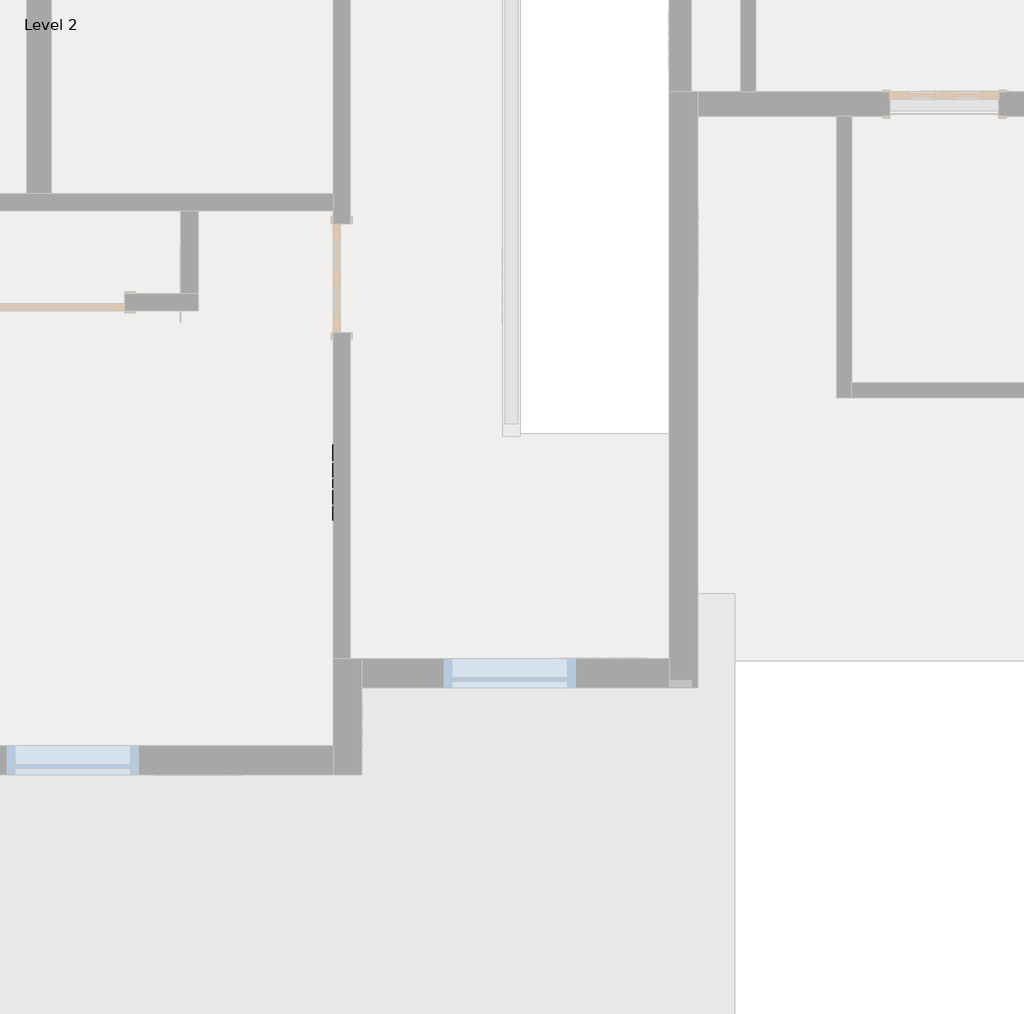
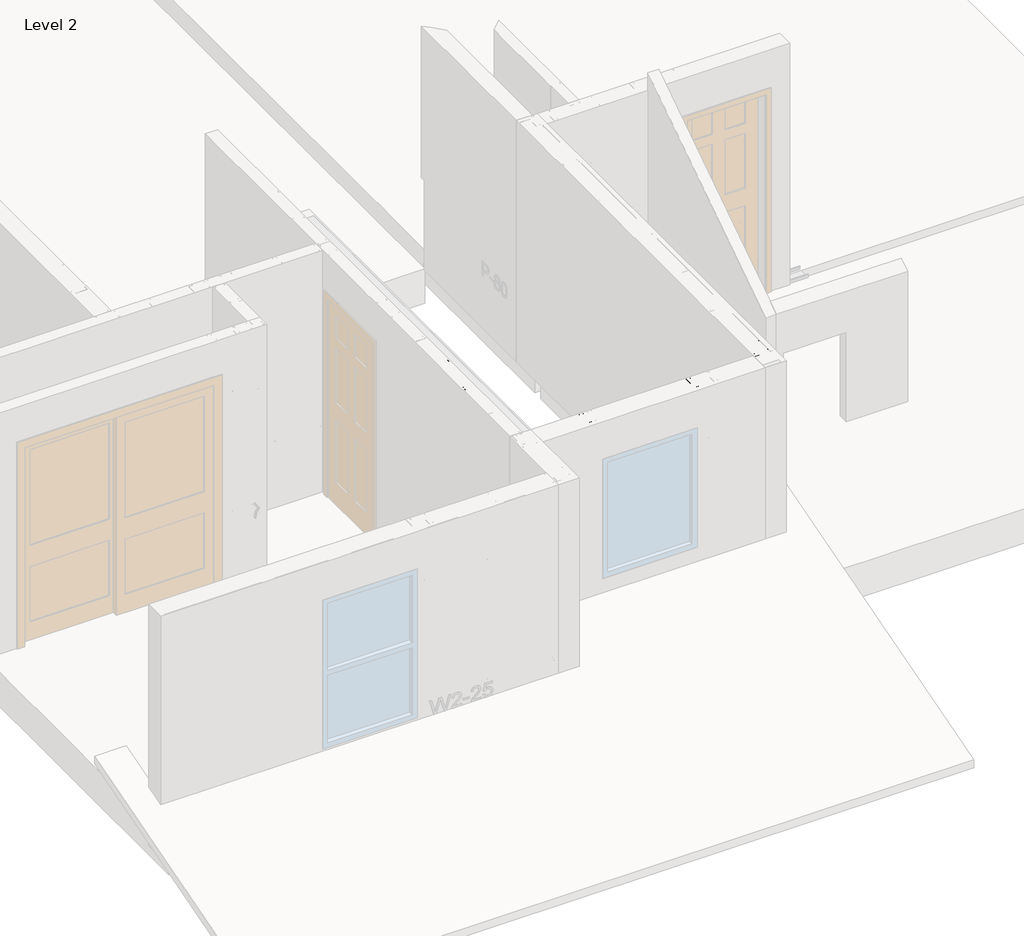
# One storey, part 6 of 46: 6 columns, 1 beam, 1 fastener.
"""IFC4 building model written with IfcOpenShell, lengths in millimetres."""

from ifc_helpers import new_model, si_unit, point, frame, origin, place, context, project, spatial, circle_curve, ellipse_curve, trimmed, transform, mapped, element, save
from ifc_brep_helpers import plane_surface, extruded_surface, advanced_brep
from components import beam_350nf150_33_3c31088f, panellabel_398e1005

model = new_model("IFC4")

# Units and contexts
model_context = context("Model", 3, world=origin())
ifc_project = project(units=[si_unit("LENGTHUNIT", "METRE", prefix="MILLI")], contexts=[model_context])

# Site, building, storey
site = spatial("IfcSite", under=ifc_project)
building = spatial("IfcBuilding", under=site)
storey = spatial("IfcBuildingStorey", under=building, Name="Level 2", Elevation=3060.7)

# Beam
placement = place(None, origin())
beam_350nf150_33_shape = beam_350nf150_33_3c31088f(model_context)
element("IfcBeam", 1, ObjectType="BIMSF-SSMA-S : 350NF150-33", at=placement, inside=storey, context=model_context, shape_type="MappedRepresentation", body=[
    mapped(beam_350nf150_33_shape, transform((-11409.4913349, 3710.114721, 3076.575), x_axis=(0.0, 1.0000000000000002, 0.0), y_axis=(0.0, 0.0, -1.0000000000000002), z_axis=(-1.0000000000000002, 0.0, 0.0))),
])

# Columns
element("IfcColumn", 2, ObjectType="BIMSF-SSMA-S-Column : 350NF150-33", at=placement, inside=storey, context=model_context, shape_type="AdvancedBrep", body=[
    advanced_brep(
    [(-11365.0413349, 3356.102221, 3061.5929687), (-11453.9413349, 3356.102221, 3061.5929687), (-11453.9413349, 3394.202221, 3061.5929687), (-11448.2838191, 3394.202221, 3061.5929687), (-11448.2838191, 3393.3199052, 3061.5929687), (-11453.0590191, 3393.3199052, 3061.5929687), (-11453.0590191, 3356.9845367, 3061.5929687), (-11365.9236507, 3356.9845367, 3061.5929687), (-11365.9236507, 3393.3199052, 3061.5929687), (-11370.6988507, 3393.3199052, 3061.5929687), (-11370.6988507, 3394.202221, 3061.5929687), (-11365.0413349, 3394.202221, 3061.5929687), (-11365.0413349, 3356.102221, 5523.6070313), (-11453.9413349, 3356.102221, 5523.6070313), (-11422.1913349, 3356.102221, 3671.1929688), (-11396.7913349, 3356.102221, 3671.1929688), (-11422.1913349, 3356.102221, 4890.3929687), (-11396.7913349, 3356.102221, 4890.3929687), (-11453.9413349, 3394.202221, 5523.6070313), (-11448.2838191, 3394.202221, 5523.6070313), (-11448.2838191, 3393.3199052, 5523.6070313), (-11453.0590191, 3393.3199052, 5523.6070313), (-11453.0590191, 3356.9845367, 5523.6070313), (-11365.9236507, 3356.9845367, 5523.6070313), (-11396.7913349, 3356.9845367, 3671.1929688), (-11422.1913349, 3356.9845367, 3671.1929688), (-11396.7913349, 3356.9845367, 4890.3929688), (-11422.1913349, 3356.9845367, 4890.3929688), (-11365.9236507, 3393.3199052, 5523.6070313), (-11370.6988507, 3393.3199052, 5523.6070313), (-11370.6988507, 3394.202221, 5523.6070313), (-11365.0413349, 3394.202221, 5523.6070313)],
    [
        (0, 1),
        (1, 2),
        (2, 3),
        (3, 4),
        (4, 5),
        (5, 6),
        (6, 7),
        (7, 8),
        (8, 9),
        (9, 10),
        (10, 11),
        (11, 0),
        (0, 12),
        (12, 13),
        (13, 1),
        (14, 15, circle_curve(frame((-11409.4913349, 3356.102221, 3671.1929688), z_axis=(0.0, 1.0, 0.0), x_axis=(-1.0, 0.0, 0.0)), 12.7)),
        (15, 14, circle_curve(frame((-11409.4913349, 3356.102221, 3671.1929688), z_axis=(0.0, 1.0, 0.0), x_axis=(-1.0, 0.0, 0.0)), 12.7)),
        (16, 17, circle_curve(frame((-11409.4913349, 3356.102221, 4890.3929688), z_axis=(0.0, 1.0, 0.0), x_axis=(-1.0, 0.0, 0.0)), 12.7)),
        (17, 16, circle_curve(frame((-11409.4913349, 3356.102221, 4890.3929688), z_axis=(0.0, 1.0, 0.0), x_axis=(-1.0, 0.0, 0.0)), 12.7)),
        (13, 18),
        (18, 2),
        (18, 19),
        (19, 3),
        (19, 20),
        (20, 4),
        (20, 21),
        (21, 5),
        (21, 22),
        (22, 6),
        (22, 23),
        (23, 7),
        (24, 25, circle_curve(frame((-11409.4913349, 3356.9845367, 3671.1929688), z_axis=(0.0, -1.0, 0.0), x_axis=(-1.0, 0.0, 0.0)), 12.7)),
        (25, 24, circle_curve(frame((-11409.4913349, 3356.9845367, 3671.1929688), z_axis=(0.0, -1.0, 0.0), x_axis=(-1.0, 0.0, 0.0)), 12.7)),
        (26, 27, circle_curve(frame((-11409.4913349, 3356.9845367, 4890.3929687), z_axis=(0.0, -1.0, 0.0), x_axis=(-1.0, 0.0, 0.0)), 12.7)),
        (27, 26, circle_curve(frame((-11409.4913349, 3356.9845367, 4890.3929687), z_axis=(0.0, -1.0, 0.0), x_axis=(-1.0, 0.0, 0.0)), 12.7)),
        (23, 28),
        (28, 8),
        (28, 29),
        (29, 9),
        (29, 30),
        (30, 10),
        (30, 31),
        (31, 11),
        (31, 12),
        (24, 15),
        (14, 25),
        (26, 17),
        (16, 27),
    ],
    [
        plane_surface(frame((-11365.0413349, 3356.102221, 3061.5929687), z_axis=(0.0, 0.0, -1.0), x_axis=(0.0, -1.0, 0.0))),
        plane_surface(frame((-11453.9413349, 3356.102221, 5523.6070313), z_axis=(0.0, -1.0, 0.0), x_axis=(0.0, 0.0, -1.0))),
        plane_surface(frame((-11453.9413349, 3394.202221, 5523.6070313), z_axis=(-1.0, 0.0, 0.0), x_axis=(0.0, 0.0, -1.0))),
        plane_surface(frame((-11448.2838191, 3394.202221, 5523.6070313), z_axis=(0.0, 1.0, 0.0), x_axis=(0.0, 0.0, -1.0))),
        plane_surface(frame((-11448.2838191, 3393.3199052, 5523.6070313), z_axis=(1.0, 0.0, 0.0), x_axis=(0.0, 0.0, -1.0))),
        plane_surface(frame((-11453.0590191, 3393.3199052, 5523.6070313), z_axis=(0.0, -1.0, 0.0), x_axis=(0.0, 0.0, -1.0))),
        plane_surface(frame((-11453.0590191, 3356.9845367, 5523.6070313), z_axis=(1.0, 0.0, 0.0), x_axis=(0.0, 0.0, -1.0))),
        plane_surface(frame((-11365.9236507, 3356.9845367, 5523.6070313), z_axis=(0.0, 1.0, 0.0), x_axis=(0.0, 0.0, -1.0))),
        plane_surface(frame((-11365.9236507, 3393.3199052, 5523.6070313), z_axis=(-1.0, 0.0, 0.0), x_axis=(0.0, 0.0, -1.0))),
        plane_surface(frame((-11370.6988507, 3393.3199052, 5523.6070313), z_axis=(0.0, -1.0, 0.0), x_axis=(0.0, 0.0, -1.0))),
        plane_surface(frame((-11370.6988507, 3394.202221, 5523.6070313), z_axis=(-1.0, 0.0, 0.0), x_axis=(0.0, 0.0, -1.0))),
        plane_surface(frame((-11365.0413349, 3394.202221, 5523.6070313), z_axis=(0.0, 1.0, 0.0), x_axis=(0.0, 0.0, -1.0))),
        plane_surface(frame((-11365.0413349, 3356.102221, 5523.6070313), z_axis=(1.0, 0.0, 0.0), x_axis=(0.0, 0.0, -1.0))),
        plane_surface(frame((-11365.0413349, 3356.102221, 5523.6070313), z_axis=(0.0, 0.0, 1.0), x_axis=(0.0, 1.0, 0.0))),
        extruded_surface(trimmed(ellipse_curve(frame((-11409.4913349, 5837.1662835, 3671.1929688), z_axis=(0.0, -1.0, 0.0), x_axis=(-1.0, 0.0, 0.0)), 12.7, 12.7), [point((-11396.7913349, 5837.1662835, 3671.1929688))], [point((-11422.1913349, 5837.1662835, 3671.1929688))], True, "CARTESIAN"), (0.0, 4924.028125, 0.0), 4924.028125),
        extruded_surface(trimmed(ellipse_curve(frame((-11409.4913349, 5837.1662835, 3671.1929688), z_axis=(0.0, -1.0, 0.0), x_axis=(-1.0, 0.0, 0.0)), 12.7, 12.7), [point((-11422.1913349, 5837.1662835, 3671.1929688))], [point((-11396.7913349, 5837.1662835, 3671.1929688))], True, "CARTESIAN"), (0.0, 4924.028125, 0.0), 4924.028125),
        extruded_surface(trimmed(ellipse_curve(frame((-11409.4913349, 5837.1662835, 4890.3929687), z_axis=(0.0, -1.0, 0.0), x_axis=(-1.0, 0.0, 0.0)), 12.7, 12.7), [point((-11396.7913349, 5837.1662835, 4890.3929687))], [point((-11422.1913349, 5837.1662835, 4890.3929687))], True, "CARTESIAN"), (0.0, 4924.028125, 0.0), 4924.028125),
        extruded_surface(trimmed(ellipse_curve(frame((-11409.4913349, 5837.1662835, 4890.3929687), z_axis=(0.0, -1.0, 0.0), x_axis=(-1.0, 0.0, 0.0)), 12.7, 12.7), [point((-11422.1913349, 5837.1662835, 4890.3929687))], [point((-11396.7913349, 5837.1662835, 4890.3929687))], True, "CARTESIAN"), (0.0, 4924.028125, 0.0), 4924.028125),
    ],
    [
        (0, [[1, 2, 3, 4, 5, 6, 7, 8, 9, 10, 11, 12]]),
        (1, [[-1, 13, 14, 15], [16, 17], [18, 19]]),
        (2, [[-2, -15, 20, 21]]),
        (3, [[-3, -21, 22, 23]]),
        (4, [[-4, -23, 24, 25]]),
        (5, [[-5, -25, 26, 27]]),
        (6, [[-6, -27, 28, 29]]),
        (7, [[-7, -29, 30, 31], [32, 33], [34, 35]]),
        (8, [[-8, -31, 36, 37]]),
        (9, [[-9, -37, 38, 39]]),
        (10, [[-10, -39, 40, 41]]),
        (11, [[-11, -41, 42, 43]]),
        (12, [[-12, -43, 44, -13]]),
        (13, [[-14, -44, -42, -40, -38, -36, -30, -28, -26, -24, -22, -20]]),
        (14, [[45, -16, 46, -32]]),
        (15, [[-45, -33, -46, -17]]),
        (16, [[47, -18, 48, -34]]),
        (17, [[-47, -35, -48, -19]]),
    ],
),
])
element("IfcColumn", 3, ObjectType="BIMSF-SSMA-S-Column : 350NF150-33", at=placement, inside=storey, context=model_context, shape_type="AdvancedBrep", body=[
    advanced_brep(
    [(-11365.0413349, 3762.502221, 3061.5929687), (-11453.9413349, 3762.502221, 3061.5929687), (-11453.9413349, 3800.602221, 3061.5929687), (-11448.2838191, 3800.602221, 3061.5929687), (-11448.2838191, 3799.7199052, 3061.5929687), (-11453.0590191, 3799.7199052, 3061.5929687), (-11453.0590191, 3763.3845367, 3061.5929687), (-11365.9236507, 3763.3845367, 3061.5929687), (-11365.9236507, 3799.7199052, 3061.5929687), (-11370.6988507, 3799.7199052, 3061.5929687), (-11370.6988507, 3800.602221, 3061.5929687), (-11365.0413349, 3800.602221, 3061.5929687), (-11365.0413349, 3762.502221, 5523.6070313), (-11453.9413349, 3762.502221, 5523.6070313), (-11422.1913349, 3762.502221, 3671.1929687), (-11396.7913349, 3762.502221, 3671.1929687), (-11422.1913349, 3762.502221, 4890.3929687), (-11396.7913349, 3762.502221, 4890.3929687), (-11453.9413349, 3800.602221, 5523.6070313), (-11448.2838191, 3800.602221, 5523.6070313), (-11448.2838191, 3799.7199052, 5523.6070313), (-11453.0590191, 3799.7199052, 5523.6070313), (-11453.0590191, 3763.3845367, 5523.6070313), (-11365.9236507, 3763.3845367, 5523.6070313), (-11396.7913349, 3763.3845367, 3671.1929688), (-11422.1913349, 3763.3845367, 3671.1929688), (-11396.7913349, 3763.3845367, 4890.3929687), (-11422.1913349, 3763.3845367, 4890.3929687), (-11365.9236507, 3799.7199052, 5523.6070313), (-11370.6988507, 3799.7199052, 5523.6070313), (-11370.6988507, 3800.602221, 5523.6070313), (-11365.0413349, 3800.602221, 5523.6070313)],
    [
        (0, 1),
        (1, 2),
        (2, 3),
        (3, 4),
        (4, 5),
        (5, 6),
        (6, 7),
        (7, 8),
        (8, 9),
        (9, 10),
        (10, 11),
        (11, 0),
        (0, 12),
        (12, 13),
        (13, 1),
        (14, 15, circle_curve(frame((-11409.4913349, 3762.502221, 3671.1929688), z_axis=(0.0, 1.0, 0.0), x_axis=(-1.0, 0.0, 0.0)), 12.7)),
        (15, 14, circle_curve(frame((-11409.4913349, 3762.502221, 3671.1929688), z_axis=(0.0, 1.0, 0.0), x_axis=(-1.0, 0.0, 0.0)), 12.7)),
        (16, 17, circle_curve(frame((-11409.4913349, 3762.502221, 4890.3929687), z_axis=(0.0, 1.0, 0.0), x_axis=(-1.0, 0.0, 0.0)), 12.7)),
        (17, 16, circle_curve(frame((-11409.4913349, 3762.502221, 4890.3929687), z_axis=(0.0, 1.0, 0.0), x_axis=(-1.0, 0.0, 0.0)), 12.7)),
        (13, 18),
        (18, 2),
        (18, 19),
        (19, 3),
        (19, 20),
        (20, 4),
        (20, 21),
        (21, 5),
        (21, 22),
        (22, 6),
        (22, 23),
        (23, 7),
        (24, 25, circle_curve(frame((-11409.4913349, 3763.3845367, 3671.1929687), z_axis=(0.0, -1.0, 0.0), x_axis=(-1.0, 0.0, 0.0)), 12.7)),
        (25, 24, circle_curve(frame((-11409.4913349, 3763.3845367, 3671.1929687), z_axis=(0.0, -1.0, 0.0), x_axis=(-1.0, 0.0, 0.0)), 12.7)),
        (26, 27, circle_curve(frame((-11409.4913349, 3763.3845367, 4890.3929687), z_axis=(0.0, -1.0, 0.0), x_axis=(-1.0, 0.0, 0.0)), 12.7)),
        (27, 26, circle_curve(frame((-11409.4913349, 3763.3845367, 4890.3929687), z_axis=(0.0, -1.0, 0.0), x_axis=(-1.0, 0.0, 0.0)), 12.7)),
        (23, 28),
        (28, 8),
        (28, 29),
        (29, 9),
        (29, 30),
        (30, 10),
        (30, 31),
        (31, 11),
        (31, 12),
        (24, 15),
        (14, 25),
        (26, 17),
        (16, 27),
    ],
    [
        plane_surface(frame((-11365.0413349, 3762.502221, 3061.5929687), z_axis=(0.0, 0.0, -1.0), x_axis=(0.0, -1.0, 0.0))),
        plane_surface(frame((-11453.9413349, 3762.502221, 5523.6070313), z_axis=(0.0, -1.0, 0.0), x_axis=(0.0, 0.0, -1.0))),
        plane_surface(frame((-11453.9413349, 3800.602221, 5523.6070313), z_axis=(-1.0, 0.0, 0.0), x_axis=(0.0, 0.0, -1.0))),
        plane_surface(frame((-11448.2838191, 3800.602221, 5523.6070313), z_axis=(0.0, 1.0, 0.0), x_axis=(0.0, 0.0, -1.0))),
        plane_surface(frame((-11448.2838191, 3799.7199052, 5523.6070313), z_axis=(1.0, 0.0, 0.0), x_axis=(0.0, 0.0, -1.0))),
        plane_surface(frame((-11453.0590191, 3799.7199052, 5523.6070313), z_axis=(0.0, -1.0, 0.0), x_axis=(0.0, 0.0, -1.0))),
        plane_surface(frame((-11453.0590191, 3763.3845367, 5523.6070313), z_axis=(1.0, 0.0, 0.0), x_axis=(0.0, 0.0, -1.0))),
        plane_surface(frame((-11365.9236507, 3763.3845367, 5523.6070313), z_axis=(0.0, 1.0, 0.0), x_axis=(0.0, 0.0, -1.0))),
        plane_surface(frame((-11365.9236507, 3799.7199052, 5523.6070313), z_axis=(-1.0, 0.0, 0.0), x_axis=(0.0, 0.0, -1.0))),
        plane_surface(frame((-11370.6988507, 3799.7199052, 5523.6070313), z_axis=(0.0, -1.0, 0.0), x_axis=(0.0, 0.0, -1.0))),
        plane_surface(frame((-11370.6988507, 3800.602221, 5523.6070313), z_axis=(-1.0, 0.0, 0.0), x_axis=(0.0, 0.0, -1.0))),
        plane_surface(frame((-11365.0413349, 3800.602221, 5523.6070313), z_axis=(0.0, 1.0, 0.0), x_axis=(0.0, 0.0, -1.0))),
        plane_surface(frame((-11365.0413349, 3762.502221, 5523.6070313), z_axis=(1.0, 0.0, 0.0), x_axis=(0.0, 0.0, -1.0))),
        plane_surface(frame((-11365.0413349, 3762.502221, 5523.6070313), z_axis=(0.0, 0.0, 1.0), x_axis=(0.0, 1.0, 0.0))),
        extruded_surface(trimmed(ellipse_curve(frame((-11409.4913349, 6243.5662835, 3671.1929688), z_axis=(0.0, -1.0, 0.0), x_axis=(-1.0, 0.0, 0.0)), 12.7, 12.7), [point((-11396.7913349, 6243.5662835, 3671.1929688))], [point((-11422.1913349, 6243.5662835, 3671.1929688))], True, "CARTESIAN"), (0.0, 4924.028124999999, 0.0), 4924.028124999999),
        extruded_surface(trimmed(ellipse_curve(frame((-11409.4913349, 6243.5662835, 3671.1929688), z_axis=(0.0, -1.0, 0.0), x_axis=(-1.0, 0.0, 0.0)), 12.7, 12.7), [point((-11422.1913349, 6243.5662835, 3671.1929688))], [point((-11396.7913349, 6243.5662835, 3671.1929688))], True, "CARTESIAN"), (0.0, 4924.028124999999, 0.0), 4924.028124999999),
        extruded_surface(trimmed(ellipse_curve(frame((-11409.4913349, 6243.5662835, 4890.3929687), z_axis=(0.0, -1.0, 0.0), x_axis=(-1.0, 0.0, 0.0)), 12.7, 12.7), [point((-11396.7913349, 6243.5662835, 4890.3929687))], [point((-11422.1913349, 6243.5662835, 4890.3929687))], True, "CARTESIAN"), (0.0, 4924.028124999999, 0.0), 4924.028124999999),
        extruded_surface(trimmed(ellipse_curve(frame((-11409.4913349, 6243.5662835, 4890.3929687), z_axis=(0.0, -1.0, 0.0), x_axis=(-1.0, 0.0, 0.0)), 12.7, 12.7), [point((-11422.1913349, 6243.5662835, 4890.3929687))], [point((-11396.7913349, 6243.5662835, 4890.3929687))], True, "CARTESIAN"), (0.0, 4924.028124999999, 0.0), 4924.028124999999),
    ],
    [
        (0, [[1, 2, 3, 4, 5, 6, 7, 8, 9, 10, 11, 12]]),
        (1, [[-1, 13, 14, 15], [16, 17], [18, 19]]),
        (2, [[-2, -15, 20, 21]]),
        (3, [[-3, -21, 22, 23]]),
        (4, [[-4, -23, 24, 25]]),
        (5, [[-5, -25, 26, 27]]),
        (6, [[-6, -27, 28, 29]]),
        (7, [[-7, -29, 30, 31], [32, 33], [34, 35]]),
        (8, [[-8, -31, 36, 37]]),
        (9, [[-9, -37, 38, 39]]),
        (10, [[-10, -39, 40, 41]]),
        (11, [[-11, -41, 42, 43]]),
        (12, [[-12, -43, 44, -13]]),
        (13, [[-14, -44, -42, -40, -38, -36, -30, -28, -26, -24, -22, -20]]),
        (14, [[45, -16, 46, -32]]),
        (15, [[-45, -33, -46, -17]]),
        (16, [[47, -18, 48, -34]]),
        (17, [[-47, -35, -48, -19]]),
    ],
),
])
element("IfcColumn", 4, ObjectType="BIMSF-SSMA-S-Column : 550NF150-43", at=placement, inside=storey, context=model_context, shape_type="AdvancedBrep", body=[
    advanced_brep(
    [(-8964.7413349, 2562.352221, 3061.5929687), (-9104.4413349, 2562.352221, 3061.5929687), (-9104.4413349, 2600.452221, 3061.5929687), (-9098.5164507, 2600.452221, 3061.5929687), (-9098.5164507, 2599.3025367, 3061.5929687), (-9103.2916507, 2599.3025367, 3061.5929687), (-9103.2916507, 2563.5019052, 3061.5929687), (-8965.8910191, 2563.5019052, 3061.5929687), (-8965.8910191, 2599.3025367, 3061.5929687), (-8970.6662191, 2599.3025367, 3061.5929687), (-8970.6662191, 2600.452221, 3061.5929687), (-8964.7413349, 2600.452221, 3061.5929687), (-8964.7413349, 2562.352221, 5523.6070313), (-9104.4413349, 2562.352221, 5523.6070313), (-9047.2913349, 2562.352221, 3671.1929687), (-9021.8913349, 2562.352221, 3671.1929687), (-9047.2913349, 2562.352221, 4890.3929687), (-9021.8913349, 2562.352221, 4890.3929687), (-9104.4413349, 2600.452221, 5523.6070313), (-9098.5164507, 2600.452221, 5523.6070313), (-9098.5164507, 2599.3025367, 5523.6070313), (-9103.2916507, 2599.3025367, 5523.6070313), (-9103.2916507, 2563.5019052, 5523.6070313), (-8965.8910191, 2563.5019052, 5523.6070313), (-9021.8913349, 2563.5019052, 3671.1929688), (-9047.2913349, 2563.5019052, 3671.1929688), (-9021.8913349, 2563.5019052, 4890.3929687), (-9047.2913349, 2563.5019052, 4890.3929687), (-8965.8910191, 2599.3025367, 5523.6070313), (-8970.6662191, 2599.3025367, 5523.6070313), (-8970.6662191, 2600.452221, 5523.6070313), (-8964.7413349, 2600.452221, 5523.6070313)],
    [
        (0, 1),
        (1, 2),
        (2, 3),
        (3, 4),
        (4, 5),
        (5, 6),
        (6, 7),
        (7, 8),
        (8, 9),
        (9, 10),
        (10, 11),
        (11, 0),
        (0, 12),
        (12, 13),
        (13, 1),
        (14, 15, circle_curve(frame((-9034.5913349, 2562.352221, 3671.1929688), z_axis=(0.0, 1.0, 0.0), x_axis=(-1.0, 0.0, 0.0)), 12.7)),
        (15, 14, circle_curve(frame((-9034.5913349, 2562.352221, 3671.1929688), z_axis=(0.0, 1.0, 0.0), x_axis=(-1.0, 0.0, 0.0)), 12.7)),
        (16, 17, circle_curve(frame((-9034.5913349, 2562.352221, 4890.3929687), z_axis=(0.0, 1.0, 0.0), x_axis=(-1.0, 0.0, 0.0)), 12.7)),
        (17, 16, circle_curve(frame((-9034.5913349, 2562.352221, 4890.3929687), z_axis=(0.0, 1.0, 0.0), x_axis=(-1.0, 0.0, 0.0)), 12.7)),
        (13, 18),
        (18, 2),
        (18, 19),
        (19, 3),
        (19, 20),
        (20, 4),
        (20, 21),
        (21, 5),
        (21, 22),
        (22, 6),
        (22, 23),
        (23, 7),
        (24, 25, circle_curve(frame((-9034.5913349, 2563.5019052, 3671.1929688), z_axis=(0.0, -1.0, 0.0), x_axis=(-1.0, 0.0, 0.0)), 12.7)),
        (25, 24, circle_curve(frame((-9034.5913349, 2563.5019052, 3671.1929688), z_axis=(0.0, -1.0, 0.0), x_axis=(-1.0, 0.0, 0.0)), 12.7)),
        (26, 27, circle_curve(frame((-9034.5913349, 2563.5019052, 4890.3929687), z_axis=(0.0, -1.0, 0.0), x_axis=(-1.0, 0.0, 0.0)), 12.7)),
        (27, 26, circle_curve(frame((-9034.5913349, 2563.5019052, 4890.3929687), z_axis=(0.0, -1.0, 0.0), x_axis=(-1.0, 0.0, 0.0)), 12.7)),
        (23, 28),
        (28, 8),
        (28, 29),
        (29, 9),
        (29, 30),
        (30, 10),
        (30, 31),
        (31, 11),
        (31, 12),
        (24, 15),
        (14, 25),
        (26, 17),
        (16, 27),
    ],
    [
        plane_surface(frame((-8964.7413349, 2562.352221, 3061.5929687), z_axis=(0.0, 0.0, -1.0), x_axis=(0.0, -1.0, 0.0))),
        plane_surface(frame((-9104.4413349, 2562.352221, 5523.6070313), z_axis=(0.0, -1.0, 0.0), x_axis=(0.0, 0.0, -1.0))),
        plane_surface(frame((-9104.4413349, 2600.452221, 5523.6070313), z_axis=(-1.0, 0.0, 0.0), x_axis=(0.0, 0.0, -1.0))),
        plane_surface(frame((-9098.5164507, 2600.452221, 5523.6070313), z_axis=(0.0, 1.0, 0.0), x_axis=(0.0, 0.0, -1.0))),
        plane_surface(frame((-9098.5164507, 2599.3025367, 5523.6070313), z_axis=(1.0, 0.0, 0.0), x_axis=(0.0, 0.0, -1.0))),
        plane_surface(frame((-9103.2916507, 2599.3025367, 5523.6070313), z_axis=(0.0, -1.0, 0.0), x_axis=(0.0, 0.0, -1.0))),
        plane_surface(frame((-9103.2916507, 2563.5019052, 5523.6070313), z_axis=(1.0, 0.0, 0.0), x_axis=(0.0, 0.0, -1.0))),
        plane_surface(frame((-8965.8910191, 2563.5019052, 5523.6070313), z_axis=(0.0, 1.0, 0.0), x_axis=(0.0, 0.0, -1.0))),
        plane_surface(frame((-8965.8910191, 2599.3025367, 5523.6070313), z_axis=(-1.0, 0.0, 0.0), x_axis=(0.0, 0.0, -1.0))),
        plane_surface(frame((-8970.6662191, 2599.3025367, 5523.6070313), z_axis=(0.0, -1.0, 0.0), x_axis=(0.0, 0.0, -1.0))),
        plane_surface(frame((-8970.6662191, 2600.452221, 5523.6070313), z_axis=(-1.0, 0.0, 0.0), x_axis=(0.0, 0.0, -1.0))),
        plane_surface(frame((-8964.7413349, 2600.452221, 5523.6070313), z_axis=(0.0, 1.0, 0.0), x_axis=(0.0, 0.0, -1.0))),
        plane_surface(frame((-8964.7413349, 2562.352221, 5523.6070313), z_axis=(1.0, 0.0, 0.0), x_axis=(0.0, 0.0, -1.0))),
        plane_surface(frame((-8964.7413349, 2562.352221, 5523.6070313), z_axis=(0.0, 0.0, 1.0), x_axis=(0.0, 1.0, 0.0))),
        extruded_surface(trimmed(ellipse_curve(frame((-9034.5913349, 5043.4162835, 3671.1929688), z_axis=(0.0, -1.0, 0.0), x_axis=(-1.0, 0.0, 0.0)), 12.7, 12.7), [point((-9021.8913349, 5043.4162835, 3671.1929688))], [point((-9047.2913349, 5043.4162835, 3671.1929688))], True, "CARTESIAN"), (0.0, 4924.028125, 0.0), 4924.028125),
        extruded_surface(trimmed(ellipse_curve(frame((-9034.5913349, 5043.4162835, 3671.1929688), z_axis=(0.0, -1.0, 0.0), x_axis=(-1.0, 0.0, 0.0)), 12.7, 12.7), [point((-9047.2913349, 5043.4162835, 3671.1929688))], [point((-9021.8913349, 5043.4162835, 3671.1929688))], True, "CARTESIAN"), (0.0, 4924.028125, 0.0), 4924.028125),
        extruded_surface(trimmed(ellipse_curve(frame((-9034.5913349, 5043.4162835, 4890.3929687), z_axis=(0.0, -1.0, 0.0), x_axis=(-1.0, 0.0, 0.0)), 12.7, 12.7), [point((-9021.8913349, 5043.4162835, 4890.3929687))], [point((-9047.2913349, 5043.4162835, 4890.3929687))], True, "CARTESIAN"), (0.0, 4924.028125, 0.0), 4924.028125),
        extruded_surface(trimmed(ellipse_curve(frame((-9034.5913349, 5043.4162835, 4890.3929687), z_axis=(0.0, -1.0, 0.0), x_axis=(-1.0, 0.0, 0.0)), 12.7, 12.7), [point((-9047.2913349, 5043.4162835, 4890.3929687))], [point((-9021.8913349, 5043.4162835, 4890.3929687))], True, "CARTESIAN"), (0.0, 4924.028125, 0.0), 4924.028125),
    ],
    [
        (0, [[1, 2, 3, 4, 5, 6, 7, 8, 9, 10, 11, 12]]),
        (1, [[-1, 13, 14, 15], [16, 17], [18, 19]]),
        (2, [[-2, -15, 20, 21]]),
        (3, [[-3, -21, 22, 23]]),
        (4, [[-4, -23, 24, 25]]),
        (5, [[-5, -25, 26, 27]]),
        (6, [[-6, -27, 28, 29]]),
        (7, [[-7, -29, 30, 31], [32, 33], [34, 35]]),
        (8, [[-8, -31, 36, 37]]),
        (9, [[-9, -37, 38, 39]]),
        (10, [[-10, -39, 40, 41]]),
        (11, [[-11, -41, 42, 43]]),
        (12, [[-12, -43, 44, -13]]),
        (13, [[-14, -44, -42, -40, -38, -36, -30, -28, -26, -24, -22, -20]]),
        (14, [[45, -16, 46, -32]]),
        (15, [[-45, -33, -46, -17]]),
        (16, [[47, -18, 48, -34]]),
        (17, [[-47, -35, -48, -19]]),
    ],
),
])
element("IfcColumn", 5, ObjectType="BIMSF-SSMA-S-Column : 550NF150-43", at=placement, inside=storey, context=model_context, shape_type="AdvancedBrep", body=[
    advanced_brep(
    [(-8964.7413349, 2708.402221, 3061.5929687), (-9104.4413349, 2708.402221, 3061.5929687), (-9104.4413349, 2746.502221, 3061.5929687), (-9098.5164507, 2746.502221, 3061.5929687), (-9098.5164507, 2745.3525367, 3061.5929687), (-9103.2916507, 2745.3525367, 3061.5929687), (-9103.2916507, 2709.5519052, 3061.5929687), (-8965.8910191, 2709.5519052, 3061.5929687), (-8965.8910191, 2745.3525367, 3061.5929687), (-8970.6662191, 2745.3525367, 3061.5929687), (-8970.6662191, 2746.502221, 3061.5929687), (-8964.7413349, 2746.502221, 3061.5929687), (-8964.7413349, 2708.402221, 5523.6070313), (-9104.4413349, 2708.402221, 5523.6070313), (-9047.2913349, 2708.402221, 3671.1929687), (-9021.8913349, 2708.402221, 3671.1929687), (-9047.2913349, 2708.402221, 4890.3929687), (-9021.8913349, 2708.402221, 4890.3929687), (-9104.4413349, 2746.502221, 5523.6070313), (-9098.5164507, 2746.502221, 5523.6070313), (-9098.5164507, 2745.3525367, 5523.6070313), (-9103.2916507, 2745.3525367, 5523.6070313), (-9103.2916507, 2709.5519052, 5523.6070313), (-8965.8910191, 2709.5519052, 5523.6070313), (-9021.8913349, 2709.5519052, 3671.1929688), (-9047.2913349, 2709.5519052, 3671.1929688), (-9021.8913349, 2709.5519052, 4890.3929687), (-9047.2913349, 2709.5519052, 4890.3929687), (-8965.8910191, 2745.3525367, 5523.6070313), (-8970.6662191, 2745.3525367, 5523.6070313), (-8970.6662191, 2746.502221, 5523.6070313), (-8964.7413349, 2746.502221, 5523.6070313)],
    [
        (0, 1),
        (1, 2),
        (2, 3),
        (3, 4),
        (4, 5),
        (5, 6),
        (6, 7),
        (7, 8),
        (8, 9),
        (9, 10),
        (10, 11),
        (11, 0),
        (0, 12),
        (12, 13),
        (13, 1),
        (14, 15, circle_curve(frame((-9034.5913349, 2708.402221, 3671.1929688), z_axis=(0.0, 1.0, 0.0), x_axis=(-1.0, 0.0, 0.0)), 12.7)),
        (15, 14, circle_curve(frame((-9034.5913349, 2708.402221, 3671.1929688), z_axis=(0.0, 1.0, 0.0), x_axis=(-1.0, 0.0, 0.0)), 12.7)),
        (16, 17, circle_curve(frame((-9034.5913349, 2708.402221, 4890.3929687), z_axis=(0.0, 1.0, 0.0), x_axis=(-1.0, 0.0, 0.0)), 12.7)),
        (17, 16, circle_curve(frame((-9034.5913349, 2708.402221, 4890.3929687), z_axis=(0.0, 1.0, 0.0), x_axis=(-1.0, 0.0, 0.0)), 12.7)),
        (13, 18),
        (18, 2),
        (18, 19),
        (19, 3),
        (19, 20),
        (20, 4),
        (20, 21),
        (21, 5),
        (21, 22),
        (22, 6),
        (22, 23),
        (23, 7),
        (24, 25, circle_curve(frame((-9034.5913349, 2709.5519052, 3671.1929688), z_axis=(0.0, -1.0, 0.0), x_axis=(-1.0, 0.0, 0.0)), 12.7)),
        (25, 24, circle_curve(frame((-9034.5913349, 2709.5519052, 3671.1929688), z_axis=(0.0, -1.0, 0.0), x_axis=(-1.0, 0.0, 0.0)), 12.7)),
        (26, 27, circle_curve(frame((-9034.5913349, 2709.5519052, 4890.3929687), z_axis=(0.0, -1.0, 0.0), x_axis=(-1.0, 0.0, 0.0)), 12.7)),
        (27, 26, circle_curve(frame((-9034.5913349, 2709.5519052, 4890.3929687), z_axis=(0.0, -1.0, 0.0), x_axis=(-1.0, 0.0, 0.0)), 12.7)),
        (23, 28),
        (28, 8),
        (28, 29),
        (29, 9),
        (29, 30),
        (30, 10),
        (30, 31),
        (31, 11),
        (31, 12),
        (24, 15),
        (14, 25),
        (26, 17),
        (16, 27),
    ],
    [
        plane_surface(frame((-8964.7413349, 2708.402221, 3061.5929687), z_axis=(0.0, 0.0, -1.0), x_axis=(0.0, -1.0, 0.0))),
        plane_surface(frame((-9104.4413349, 2708.402221, 5523.6070313), z_axis=(0.0, -1.0, 0.0), x_axis=(0.0, 0.0, -1.0))),
        plane_surface(frame((-9104.4413349, 2746.502221, 5523.6070313), z_axis=(-1.0, 0.0, 0.0), x_axis=(0.0, 0.0, -1.0))),
        plane_surface(frame((-9098.5164507, 2746.502221, 5523.6070313), z_axis=(0.0, 1.0, 0.0), x_axis=(0.0, 0.0, -1.0))),
        plane_surface(frame((-9098.5164507, 2745.3525367, 5523.6070313), z_axis=(1.0, 0.0, 0.0), x_axis=(0.0, 0.0, -1.0))),
        plane_surface(frame((-9103.2916507, 2745.3525367, 5523.6070313), z_axis=(0.0, -1.0, 0.0), x_axis=(0.0, 0.0, -1.0))),
        plane_surface(frame((-9103.2916507, 2709.5519052, 5523.6070313), z_axis=(1.0, 0.0, 0.0), x_axis=(0.0, 0.0, -1.0))),
        plane_surface(frame((-8965.8910191, 2709.5519052, 5523.6070313), z_axis=(0.0, 1.0, 0.0), x_axis=(0.0, 0.0, -1.0))),
        plane_surface(frame((-8965.8910191, 2745.3525367, 5523.6070313), z_axis=(-1.0, 0.0, 0.0), x_axis=(0.0, 0.0, -1.0))),
        plane_surface(frame((-8970.6662191, 2745.3525367, 5523.6070313), z_axis=(0.0, -1.0, 0.0), x_axis=(0.0, 0.0, -1.0))),
        plane_surface(frame((-8970.6662191, 2746.502221, 5523.6070313), z_axis=(-1.0, 0.0, 0.0), x_axis=(0.0, 0.0, -1.0))),
        plane_surface(frame((-8964.7413349, 2746.502221, 5523.6070313), z_axis=(0.0, 1.0, 0.0), x_axis=(0.0, 0.0, -1.0))),
        plane_surface(frame((-8964.7413349, 2708.402221, 5523.6070313), z_axis=(1.0, 0.0, 0.0), x_axis=(0.0, 0.0, -1.0))),
        plane_surface(frame((-8964.7413349, 2708.402221, 5523.6070313), z_axis=(0.0, 0.0, 1.0), x_axis=(0.0, 1.0, 0.0))),
        extruded_surface(trimmed(ellipse_curve(frame((-9034.5913349, 5189.4662835, 3671.1929688), z_axis=(0.0, -1.0, 0.0), x_axis=(-1.0, 0.0, 0.0)), 12.7, 12.7), [point((-9021.8913349, 5189.4662835, 3671.1929688))], [point((-9047.2913349, 5189.4662835, 3671.1929688))], True, "CARTESIAN"), (0.0, 4924.028125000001, 0.0), 4924.028125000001),
        extruded_surface(trimmed(ellipse_curve(frame((-9034.5913349, 5189.4662835, 3671.1929688), z_axis=(0.0, -1.0, 0.0), x_axis=(-1.0, 0.0, 0.0)), 12.7, 12.7), [point((-9047.2913349, 5189.4662835, 3671.1929688))], [point((-9021.8913349, 5189.4662835, 3671.1929688))], True, "CARTESIAN"), (0.0, 4924.028125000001, 0.0), 4924.028125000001),
        extruded_surface(trimmed(ellipse_curve(frame((-9034.5913349, 5189.4662835, 4890.3929687), z_axis=(0.0, -1.0, 0.0), x_axis=(-1.0, 0.0, 0.0)), 12.7, 12.7), [point((-9021.8913349, 5189.4662835, 4890.3929687))], [point((-9047.2913349, 5189.4662835, 4890.3929687))], True, "CARTESIAN"), (0.0, 4924.028125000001, 0.0), 4924.028125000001),
        extruded_surface(trimmed(ellipse_curve(frame((-9034.5913349, 5189.4662835, 4890.3929687), z_axis=(0.0, -1.0, 0.0), x_axis=(-1.0, 0.0, 0.0)), 12.7, 12.7), [point((-9047.2913349, 5189.4662835, 4890.3929687))], [point((-9021.8913349, 5189.4662835, 4890.3929687))], True, "CARTESIAN"), (0.0, 4924.028125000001, 0.0), 4924.028125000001),
    ],
    [
        (0, [[1, 2, 3, 4, 5, 6, 7, 8, 9, 10, 11, 12]]),
        (1, [[-1, 13, 14, 15], [16, 17], [18, 19]]),
        (2, [[-2, -15, 20, 21]]),
        (3, [[-3, -21, 22, 23]]),
        (4, [[-4, -23, 24, 25]]),
        (5, [[-5, -25, 26, 27]]),
        (6, [[-6, -27, 28, 29]]),
        (7, [[-7, -29, 30, 31], [32, 33], [34, 35]]),
        (8, [[-8, -31, 36, 37]]),
        (9, [[-9, -37, 38, 39]]),
        (10, [[-10, -39, 40, 41]]),
        (11, [[-11, -41, 42, 43]]),
        (12, [[-12, -43, 44, -13]]),
        (13, [[-14, -44, -42, -40, -38, -36, -30, -28, -26, -24, -22, -20]]),
        (14, [[45, -16, 46, -32]]),
        (15, [[-45, -33, -46, -17]]),
        (16, [[47, -18, 48, -34]]),
        (17, [[-47, -35, -48, -19]]),
    ],
),
])
element("IfcColumn", 6, ObjectType="BIMSF-SSMA-S-Column : 550NF150-43", at=placement, inside=storey, context=model_context, shape_type="AdvancedBrep", body=[
    advanced_brep(
    [(-9777.5413349, 2422.652221, 3061.5929687), (-9777.5413349, 2562.352221, 3061.5929687), (-9739.4413349, 2562.352221, 3061.5929687), (-9739.4413349, 2556.4273367, 3061.5929687), (-9740.5910191, 2556.4273367, 3061.5929687), (-9740.5910191, 2561.2025367, 3061.5929687), (-9776.3916507, 2561.2025367, 3061.5929687), (-9776.3916507, 2423.8019052, 3061.5929687), (-9740.5910191, 2423.8019052, 3061.5929687), (-9740.5910191, 2428.5771052, 3061.5929687), (-9739.4413349, 2428.5771052, 3061.5929687), (-9739.4413349, 2422.652221, 3061.5929687), (-9777.5413349, 2422.652221, 5523.6070313), (-9777.5413349, 2562.352221, 5523.6070313), (-9777.5413349, 2505.202221, 3671.1929688), (-9777.5413349, 2479.802221, 3671.1929688), (-9777.5413349, 2505.202221, 4890.3929687), (-9777.5413349, 2479.802221, 4890.3929687), (-9739.4413349, 2562.352221, 5523.6070313), (-9739.4413349, 2556.4273367, 5523.6070313), (-9740.5910191, 2556.4273367, 5523.6070313), (-9740.5910191, 2561.2025367, 5523.6070313), (-9776.3916507, 2561.2025367, 5523.6070313), (-9776.3916507, 2423.8019052, 5523.6070313), (-9776.3916507, 2479.802221, 3671.1929688), (-9776.3916507, 2505.202221, 3671.1929688), (-9776.3916507, 2479.802221, 4890.3929687), (-9776.3916507, 2505.202221, 4890.3929687), (-9740.5910191, 2423.8019052, 5523.6070313), (-9740.5910191, 2428.5771052, 5523.6070313), (-9739.4413349, 2428.5771052, 5523.6070313), (-9739.4413349, 2422.652221, 5523.6070313)],
    [
        (0, 1),
        (1, 2),
        (2, 3),
        (3, 4),
        (4, 5),
        (5, 6),
        (6, 7),
        (7, 8),
        (8, 9),
        (9, 10),
        (10, 11),
        (11, 0),
        (0, 12),
        (12, 13),
        (13, 1),
        (14, 15, circle_curve(frame((-9777.5413349, 2492.502221, 3671.1929687), z_axis=(1.0, 0.0, 0.0), x_axis=(0.0, 1.0, 0.0)), 12.7)),
        (15, 14, circle_curve(frame((-9777.5413349, 2492.502221, 3671.1929687), z_axis=(1.0, 0.0, 0.0), x_axis=(0.0, 1.0, 0.0)), 12.7)),
        (16, 17, circle_curve(frame((-9777.5413349, 2492.502221, 4890.3929687), z_axis=(1.0, 0.0, 0.0), x_axis=(0.0, 1.0, 0.0)), 12.7)),
        (17, 16, circle_curve(frame((-9777.5413349, 2492.502221, 4890.3929687), z_axis=(1.0, 0.0, 0.0), x_axis=(0.0, 1.0, 0.0)), 12.7)),
        (13, 18),
        (18, 2),
        (18, 19),
        (19, 3),
        (19, 20),
        (20, 4),
        (20, 21),
        (21, 5),
        (21, 22),
        (22, 6),
        (22, 23),
        (23, 7),
        (24, 25, circle_curve(frame((-9776.3916507, 2492.502221, 3671.1929687), z_axis=(-1.0, 0.0, 0.0), x_axis=(0.0, 1.0, 0.0)), 12.7)),
        (25, 24, circle_curve(frame((-9776.3916507, 2492.502221, 3671.1929687), z_axis=(-1.0, 0.0, 0.0), x_axis=(0.0, 1.0, 0.0)), 12.7)),
        (26, 27, circle_curve(frame((-9776.3916507, 2492.502221, 4890.3929687), z_axis=(-1.0, 0.0, 0.0), x_axis=(0.0, 1.0, 0.0)), 12.7)),
        (27, 26, circle_curve(frame((-9776.3916507, 2492.502221, 4890.3929687), z_axis=(-1.0, 0.0, 0.0), x_axis=(0.0, 1.0, 0.0)), 12.7)),
        (23, 28),
        (28, 8),
        (28, 29),
        (29, 9),
        (29, 30),
        (30, 10),
        (30, 31),
        (31, 11),
        (31, 12),
        (24, 15),
        (14, 25),
        (26, 17),
        (16, 27),
    ],
    [
        plane_surface(frame((-9777.5413349, 2422.652221, 3061.5929687), z_axis=(0.0, 0.0, -1.0), x_axis=(-1.0, 0.0, 0.0))),
        plane_surface(frame((-9777.5413349, 2562.352221, 5523.6070313), z_axis=(-1.0, 0.0, 0.0), x_axis=(0.0, 0.0, -1.0))),
        plane_surface(frame((-9739.4413349, 2562.352221, 5523.6070313), z_axis=(0.0, 1.0, 0.0), x_axis=(0.0, 0.0, -1.0))),
        plane_surface(frame((-9739.4413349, 2556.4273367, 5523.6070313), z_axis=(1.0, 0.0, 0.0), x_axis=(0.0, 0.0, -1.0))),
        plane_surface(frame((-9740.5910191, 2556.4273367, 5523.6070313), z_axis=(0.0, -1.0, 0.0), x_axis=(0.0, 0.0, -1.0))),
        plane_surface(frame((-9740.5910191, 2561.2025367, 5523.6070313), z_axis=(-1.0, 0.0, 0.0), x_axis=(0.0, 0.0, -1.0))),
        plane_surface(frame((-9776.3916507, 2561.2025367, 5523.6070313), z_axis=(0.0, -1.0, 0.0), x_axis=(0.0, 0.0, -1.0))),
        plane_surface(frame((-9776.3916507, 2423.8019052, 5523.6070313), z_axis=(1.0, 0.0, 0.0), x_axis=(0.0, 0.0, -1.0))),
        plane_surface(frame((-9740.5910191, 2423.8019052, 5523.6070313), z_axis=(0.0, 1.0, 0.0), x_axis=(0.0, 0.0, -1.0))),
        plane_surface(frame((-9740.5910191, 2428.5771052, 5523.6070313), z_axis=(-1.0, 0.0, 0.0), x_axis=(0.0, 0.0, -1.0))),
        plane_surface(frame((-9739.4413349, 2428.5771052, 5523.6070313), z_axis=(0.0, 1.0, 0.0), x_axis=(0.0, 0.0, -1.0))),
        plane_surface(frame((-9739.4413349, 2422.652221, 5523.6070313), z_axis=(1.0, 0.0, 0.0), x_axis=(0.0, 0.0, -1.0))),
        plane_surface(frame((-9777.5413349, 2422.652221, 5523.6070313), z_axis=(0.0, -1.0, 0.0), x_axis=(0.0, 0.0, -1.0))),
        plane_surface(frame((-9777.5413349, 2422.652221, 5523.6070313), z_axis=(0.0, 0.0, 1.0), x_axis=(1.0, 0.0, 0.0))),
        extruded_surface(trimmed(ellipse_curve(frame((-7296.4772724, 2492.502221, 3671.1929688), z_axis=(-1.0, 0.0, 0.0), x_axis=(0.0, 1.0, 0.0)), 12.7, 12.7), [point((-7296.4772724, 2479.802221, 3671.1929688))], [point((-7296.4772724, 2505.202221, 3671.1929688))], True, "CARTESIAN"), (4924.028125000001, 0.0, 0.0), 4924.028125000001),
        extruded_surface(trimmed(ellipse_curve(frame((-7296.4772724, 2492.502221, 3671.1929688), z_axis=(-1.0, 0.0, 0.0), x_axis=(0.0, 1.0, 0.0)), 12.7, 12.7), [point((-7296.4772724, 2505.202221, 3671.1929688))], [point((-7296.4772724, 2479.802221, 3671.1929688))], True, "CARTESIAN"), (4924.028125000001, 0.0, 0.0), 4924.028125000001),
        extruded_surface(trimmed(ellipse_curve(frame((-7296.4772724, 2492.502221, 4890.3929687), z_axis=(-1.0, 0.0, 0.0), x_axis=(0.0, 1.0, 0.0)), 12.7, 12.7), [point((-7296.4772724, 2479.802221, 4890.3929687))], [point((-7296.4772724, 2505.202221, 4890.3929687))], True, "CARTESIAN"), (4924.028125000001, 0.0, 0.0), 4924.028125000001),
        extruded_surface(trimmed(ellipse_curve(frame((-7296.4772724, 2492.502221, 4890.3929687), z_axis=(-1.0, 0.0, 0.0), x_axis=(0.0, 1.0, 0.0)), 12.7, 12.7), [point((-7296.4772724, 2505.202221, 4890.3929687))], [point((-7296.4772724, 2479.802221, 4890.3929687))], True, "CARTESIAN"), (4924.028125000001, 0.0, 0.0), 4924.028125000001),
    ],
    [
        (0, [[1, 2, 3, 4, 5, 6, 7, 8, 9, 10, 11, 12]]),
        (1, [[-1, 13, 14, 15], [16, 17], [18, 19]]),
        (2, [[-2, -15, 20, 21]]),
        (3, [[-3, -21, 22, 23]]),
        (4, [[-4, -23, 24, 25]]),
        (5, [[-5, -25, 26, 27]]),
        (6, [[-6, -27, 28, 29]]),
        (7, [[-7, -29, 30, 31], [32, 33], [34, 35]]),
        (8, [[-8, -31, 36, 37]]),
        (9, [[-9, -37, 38, 39]]),
        (10, [[-10, -39, 40, 41]]),
        (11, [[-11, -41, 42, 43]]),
        (12, [[-12, -43, 44, -13]]),
        (13, [[-14, -44, -42, -40, -38, -36, -30, -28, -26, -24, -22, -20]]),
        (14, [[45, -16, 46, -32]]),
        (15, [[-45, -33, -46, -17]]),
        (16, [[47, -18, 48, -34]]),
        (17, [[-47, -35, -48, -19]]),
    ],
),
])
element("IfcColumn", 7, ObjectType="BIMSF-SSMA-S-Column : 550NF150-43", at=placement, inside=storey, context=model_context, shape_type="AdvancedBrep", body=[
    advanced_brep(
    [(-10812.5913349, 2422.652221, 3061.5929687), (-10812.5913349, 2562.352221, 3061.5929687), (-10774.4913349, 2562.352221, 3061.5929687), (-10774.4913349, 2556.4273367, 3061.5929687), (-10775.6410191, 2556.4273367, 3061.5929687), (-10775.6410191, 2561.2025367, 3061.5929687), (-10811.4416507, 2561.2025367, 3061.5929687), (-10811.4416507, 2423.8019052, 3061.5929687), (-10775.6410191, 2423.8019052, 3061.5929687), (-10775.6410191, 2428.5771052, 3061.5929687), (-10774.4913349, 2428.5771052, 3061.5929687), (-10774.4913349, 2422.652221, 3061.5929687), (-10812.5913349, 2422.652221, 5523.6070313), (-10812.5913349, 2562.352221, 5523.6070313), (-10812.5913349, 2505.202221, 3671.1929688), (-10812.5913349, 2479.802221, 3671.1929688), (-10812.5913349, 2505.202221, 4890.3929687), (-10812.5913349, 2479.802221, 4890.3929687), (-10774.4913349, 2562.352221, 5523.6070313), (-10774.4913349, 2556.4273367, 5523.6070313), (-10775.6410191, 2556.4273367, 5523.6070313), (-10775.6410191, 2561.2025367, 5523.6070313), (-10811.4416507, 2561.2025367, 5523.6070313), (-10811.4416507, 2423.8019052, 5523.6070313), (-10811.4416507, 2479.802221, 3671.1929688), (-10811.4416507, 2505.202221, 3671.1929688), (-10811.4416507, 2479.802221, 4890.3929687), (-10811.4416507, 2505.202221, 4890.3929687), (-10775.6410191, 2423.8019052, 5523.6070313), (-10775.6410191, 2428.5771052, 5523.6070313), (-10774.4913349, 2428.5771052, 5523.6070313), (-10774.4913349, 2422.652221, 5523.6070313)],
    [
        (0, 1),
        (1, 2),
        (2, 3),
        (3, 4),
        (4, 5),
        (5, 6),
        (6, 7),
        (7, 8),
        (8, 9),
        (9, 10),
        (10, 11),
        (11, 0),
        (0, 12),
        (12, 13),
        (13, 1),
        (14, 15, circle_curve(frame((-10812.5913349, 2492.502221, 3671.1929688), z_axis=(1.0, 0.0, 0.0), x_axis=(0.0, 1.0, 0.0)), 12.7)),
        (15, 14, circle_curve(frame((-10812.5913349, 2492.502221, 3671.1929688), z_axis=(1.0, 0.0, 0.0), x_axis=(0.0, 1.0, 0.0)), 12.7)),
        (16, 17, circle_curve(frame((-10812.5913349, 2492.502221, 4890.3929687), z_axis=(1.0, 0.0, 0.0), x_axis=(0.0, 1.0, 0.0)), 12.7)),
        (17, 16, circle_curve(frame((-10812.5913349, 2492.502221, 4890.3929687), z_axis=(1.0, 0.0, 0.0), x_axis=(0.0, 1.0, 0.0)), 12.7)),
        (13, 18),
        (18, 2),
        (18, 19),
        (19, 3),
        (19, 20),
        (20, 4),
        (20, 21),
        (21, 5),
        (21, 22),
        (22, 6),
        (22, 23),
        (23, 7),
        (24, 25, circle_curve(frame((-10811.4416507, 2492.502221, 3671.1929687), z_axis=(-1.0, 0.0, 0.0), x_axis=(0.0, 1.0, 0.0)), 12.7)),
        (25, 24, circle_curve(frame((-10811.4416507, 2492.502221, 3671.1929687), z_axis=(-1.0, 0.0, 0.0), x_axis=(0.0, 1.0, 0.0)), 12.7)),
        (26, 27, circle_curve(frame((-10811.4416507, 2492.502221, 4890.3929687), z_axis=(-1.0, 0.0, 0.0), x_axis=(0.0, 1.0, 0.0)), 12.7)),
        (27, 26, circle_curve(frame((-10811.4416507, 2492.502221, 4890.3929687), z_axis=(-1.0, 0.0, 0.0), x_axis=(0.0, 1.0, 0.0)), 12.7)),
        (23, 28),
        (28, 8),
        (28, 29),
        (29, 9),
        (29, 30),
        (30, 10),
        (30, 31),
        (31, 11),
        (31, 12),
        (24, 15),
        (14, 25),
        (26, 17),
        (16, 27),
    ],
    [
        plane_surface(frame((-10812.5913349, 2422.652221, 3061.5929687), z_axis=(0.0, 0.0, -1.0), x_axis=(-1.0, 0.0, 0.0))),
        plane_surface(frame((-10812.5913349, 2562.352221, 5523.6070313), z_axis=(-1.0, 0.0, 0.0), x_axis=(0.0, 0.0, -1.0))),
        plane_surface(frame((-10774.4913349, 2562.352221, 5523.6070313), z_axis=(0.0, 1.0, 0.0), x_axis=(0.0, 0.0, -1.0))),
        plane_surface(frame((-10774.4913349, 2556.4273367, 5523.6070313), z_axis=(1.0, 0.0, 0.0), x_axis=(0.0, 0.0, -1.0))),
        plane_surface(frame((-10775.6410191, 2556.4273367, 5523.6070313), z_axis=(0.0, -1.0, 0.0), x_axis=(0.0, 0.0, -1.0))),
        plane_surface(frame((-10775.6410191, 2561.2025367, 5523.6070313), z_axis=(-1.0, 0.0, 0.0), x_axis=(0.0, 0.0, -1.0))),
        plane_surface(frame((-10811.4416507, 2561.2025367, 5523.6070313), z_axis=(0.0, -1.0, 0.0), x_axis=(0.0, 0.0, -1.0))),
        plane_surface(frame((-10811.4416507, 2423.8019052, 5523.6070313), z_axis=(1.0, 0.0, 0.0), x_axis=(0.0, 0.0, -1.0))),
        plane_surface(frame((-10775.6410191, 2423.8019052, 5523.6070313), z_axis=(0.0, 1.0, 0.0), x_axis=(0.0, 0.0, -1.0))),
        plane_surface(frame((-10775.6410191, 2428.5771052, 5523.6070313), z_axis=(-1.0, 0.0, 0.0), x_axis=(0.0, 0.0, -1.0))),
        plane_surface(frame((-10774.4913349, 2428.5771052, 5523.6070313), z_axis=(0.0, 1.0, 0.0), x_axis=(0.0, 0.0, -1.0))),
        plane_surface(frame((-10774.4913349, 2422.652221, 5523.6070313), z_axis=(1.0, 0.0, 0.0), x_axis=(0.0, 0.0, -1.0))),
        plane_surface(frame((-10812.5913349, 2422.652221, 5523.6070313), z_axis=(0.0, -1.0, 0.0), x_axis=(0.0, 0.0, -1.0))),
        plane_surface(frame((-10812.5913349, 2422.652221, 5523.6070313), z_axis=(0.0, 0.0, 1.0), x_axis=(1.0, 0.0, 0.0))),
        extruded_surface(trimmed(ellipse_curve(frame((-8331.5272724, 2492.502221, 3671.1929688), z_axis=(-1.0, 0.0, 0.0), x_axis=(0.0, 1.0, 0.0)), 12.7, 12.7), [point((-8331.5272724, 2479.802221, 3671.1929688))], [point((-8331.5272724, 2505.202221, 3671.1929688))], True, "CARTESIAN"), (4924.028125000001, 0.0, 0.0), 4924.028125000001),
        extruded_surface(trimmed(ellipse_curve(frame((-8331.5272724, 2492.502221, 3671.1929688), z_axis=(-1.0, 0.0, 0.0), x_axis=(0.0, 1.0, 0.0)), 12.7, 12.7), [point((-8331.5272724, 2505.202221, 3671.1929688))], [point((-8331.5272724, 2479.802221, 3671.1929688))], True, "CARTESIAN"), (4924.028125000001, 0.0, 0.0), 4924.028125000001),
        extruded_surface(trimmed(ellipse_curve(frame((-8331.5272724, 2492.502221, 4890.3929687), z_axis=(-1.0, 0.0, 0.0), x_axis=(0.0, 1.0, 0.0)), 12.7, 12.7), [point((-8331.5272724, 2479.802221, 4890.3929687))], [point((-8331.5272724, 2505.202221, 4890.3929687))], True, "CARTESIAN"), (4924.028125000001, 0.0, 0.0), 4924.028125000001),
        extruded_surface(trimmed(ellipse_curve(frame((-8331.5272724, 2492.502221, 4890.3929687), z_axis=(-1.0, 0.0, 0.0), x_axis=(0.0, 1.0, 0.0)), 12.7, 12.7), [point((-8331.5272724, 2505.202221, 4890.3929687))], [point((-8331.5272724, 2479.802221, 4890.3929687))], True, "CARTESIAN"), (4924.028125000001, 0.0, 0.0), 4924.028125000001),
    ],
    [
        (0, [[1, 2, 3, 4, 5, 6, 7, 8, 9, 10, 11, 12]]),
        (1, [[-1, 13, 14, 15], [16, 17], [18, 19]]),
        (2, [[-2, -15, 20, 21]]),
        (3, [[-3, -21, 22, 23]]),
        (4, [[-4, -23, 24, 25]]),
        (5, [[-5, -25, 26, 27]]),
        (6, [[-6, -27, 28, 29]]),
        (7, [[-7, -29, 30, 31], [32, 33], [34, 35]]),
        (8, [[-8, -31, 36, 37]]),
        (9, [[-9, -37, 38, 39]]),
        (10, [[-10, -39, 40, 41]]),
        (11, [[-11, -41, 42, 43]]),
        (12, [[-12, -43, 44, -13]]),
        (13, [[-14, -44, -42, -40, -38, -36, -30, -28, -26, -24, -22, -20]]),
        (14, [[45, -16, 46, -32]]),
        (15, [[-45, -33, -46, -17]]),
        (16, [[47, -18, 48, -34]]),
        (17, [[-47, -35, -48, -19]]),
    ],
),
])

# Fastener
panellabel_shape = panellabel_398e1005(model_context)
element("IfcFastener", 8, ObjectType="PanelLabel : Miranda", at=placement, inside=storey, context=model_context, shape_type="MappedRepresentation", body=[
    mapped(panellabel_shape, transform((-11409.4913349, 3813.302221, 2289.7232245), x_axis=(0.0, 1.0, 0.0), y_axis=(-1.0, 0.0, 0.0), z_axis=(0.0, 0.0, 1.0))),
])

save(model, "model.ifc")
